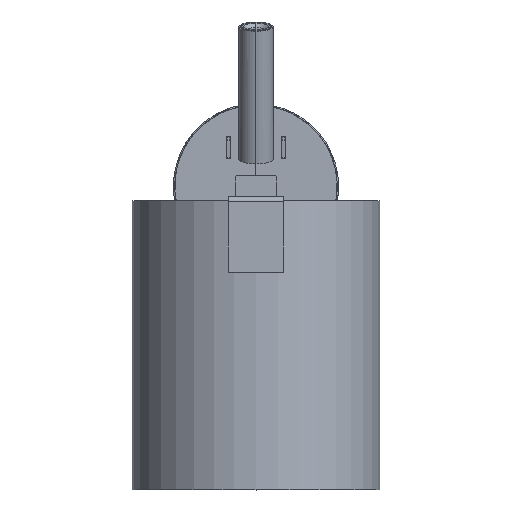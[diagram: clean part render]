
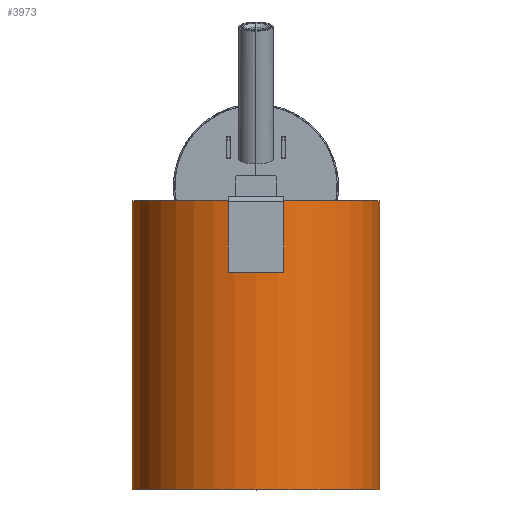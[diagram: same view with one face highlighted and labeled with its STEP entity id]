
A CAD part, top view. The second image highlights one B-rep face of the part: STEP entity #3973.
In plain terms, the highlighted cylindrical face has radius 90 mm (diameter 180 mm), a partial arc.
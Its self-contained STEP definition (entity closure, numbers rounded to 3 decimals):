
#195=CYLINDRICAL_SURFACE('',#4369,90.);
#468=FACE_OUTER_BOUND('',#736,.T.);
#736=EDGE_LOOP('',(#3118,#3119,#3120,#3121));
#987=LINE('',#9334,#1272);
#988=LINE('',#9337,#1273);
#1272=VECTOR('',#5209,304.8);
#1273=VECTOR('',#5212,304.8);
#1564=CIRCLE('',#4370,90.);
#1565=CIRCLE('',#4371,90.);
#1807=VERTEX_POINT('',#9330);
#1808=VERTEX_POINT('',#9331);
#1809=VERTEX_POINT('',#9333);
#1810=VERTEX_POINT('',#9335);
#2276=EDGE_CURVE('',#1807,#1808,#1564,.T.);
#2277=EDGE_CURVE('',#1809,#1807,#987,.T.);
#2278=EDGE_CURVE('',#1810,#1809,#1565,.T.);
#2279=EDGE_CURVE('',#1808,#1810,#988,.T.);
#3118=ORIENTED_EDGE('',*,*,#2276,.F.);
#3119=ORIENTED_EDGE('',*,*,#2277,.F.);
#3120=ORIENTED_EDGE('',*,*,#2278,.F.);
#3121=ORIENTED_EDGE('',*,*,#2279,.F.);
#3973=ADVANCED_FACE('',(#468),#195,.T.);
#4369=AXIS2_PLACEMENT_3D('',#9329,#5205,#5206);
#4370=AXIS2_PLACEMENT_3D('',#9332,#5207,#5208);
#4371=AXIS2_PLACEMENT_3D('',#9336,#5210,#5211);
#5205=DIRECTION('center_axis',(0.,-1.,0.));
#5206=DIRECTION('ref_axis',(1.,0.,0.));
#5207=DIRECTION('center_axis',(0.,-1.,0.));
#5208=DIRECTION('ref_axis',(1.,0.,0.));
#5209=DIRECTION('',(0.,-1.,0.));
#5210=DIRECTION('center_axis',(0.,1.,0.));
#5211=DIRECTION('ref_axis',(1.,0.,0.));
#5212=DIRECTION('',(0.,1.,0.));
#9329=CARTESIAN_POINT('Origin',(0.002,-10.496,125.));
#9330=CARTESIAN_POINT('',(90.002,-220.496,125.));
#9331=CARTESIAN_POINT('',(-89.998,-220.496,125.));
#9332=CARTESIAN_POINT('Origin',(0.002,-220.496,125.));
#9333=CARTESIAN_POINT('',(90.002,-10.496,125.));
#9334=CARTESIAN_POINT('',(90.002,-10.496,125.));
#9335=CARTESIAN_POINT('',(-89.998,-10.496,125.));
#9336=CARTESIAN_POINT('Origin',(0.002,-10.496,125.));
#9337=CARTESIAN_POINT('',(-89.998,-220.496,125.));
